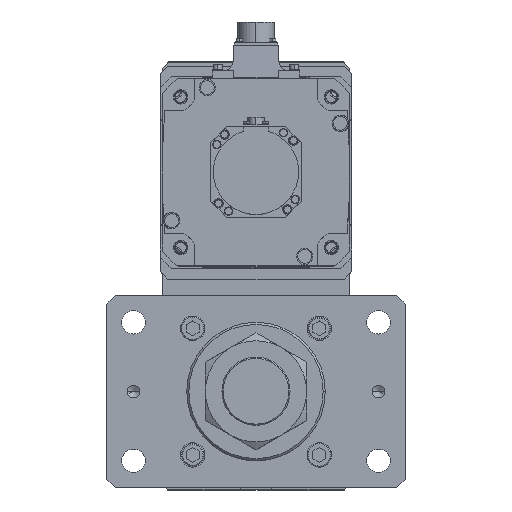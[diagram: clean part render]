
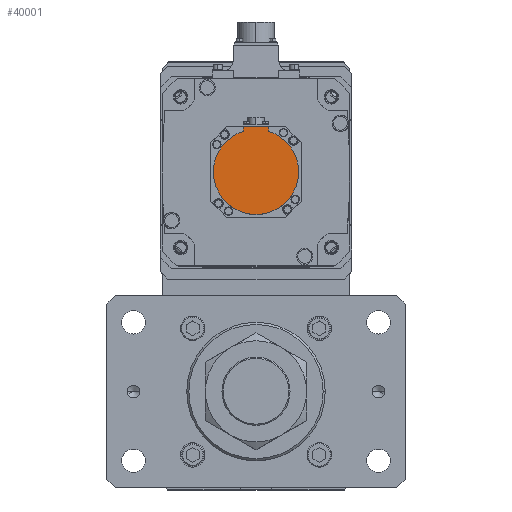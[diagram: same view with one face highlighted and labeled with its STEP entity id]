
A CAD part, top view. The second image highlights one B-rep face of the part: STEP entity #40001.
In plain terms, the highlighted planar face has unit normal (0, 0, 1) as drawn and (0, 0, -1) by its records, which use the part's own axes.
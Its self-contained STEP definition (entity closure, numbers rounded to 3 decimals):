
#1821 = EDGE_CURVE ( 'NONE', #43187, #6129, #43285, .T. ) ;
#4064 = CARTESIAN_POINT ( 'NONE',  ( -12., -42.5, -178.5 ) ) ;
#6129 = VERTEX_POINT ( 'NONE', #33279 ) ;
#6617 = ORIENTED_EDGE ( 'NONE', *, *, #52276, .F. ) ;
#7179 = PLANE ( 'NONE',  #14325 ) ;
#7367 = CARTESIAN_POINT ( 'NONE',  ( 0., -1.249, -178.5 ) ) ;
#7403 = VECTOR ( 'NONE', #18568, 1000. ) ;
#8094 = EDGE_LOOP ( 'NONE', ( #24216, #43880, #14875, #28696, #6617, #18204 ) ) ;
#8290 = CARTESIAN_POINT ( 'NONE',  ( 0., 0., -178.5 ) ) ;
#8581 = VERTEX_POINT ( 'NONE', #4064 ) ;
#9660 = CARTESIAN_POINT ( 'NONE',  ( -12., -40.329, -178.5 ) ) ;
#10130 = EDGE_CURVE ( 'NONE', #8581, #20765, #41369, .T. ) ;
#11684 = AXIS2_PLACEMENT_3D ( 'NONE', #12708, #16794, #29014 ) ;
#11835 = CARTESIAN_POINT ( 'NONE',  ( -12., -38.158, -178.5 ) ) ;
#12708 = CARTESIAN_POINT ( 'NONE',  ( 0., 0., -178.5 ) ) ;
#13900 = CARTESIAN_POINT ( 'NONE',  ( 12., -42.5, -178.5 ) ) ;
#13978 = AXIS2_PLACEMENT_3D ( 'NONE', #24026, #44633, #28604 ) ;
#14325 = AXIS2_PLACEMENT_3D ( 'NONE', #7367, #22823, #51231 ) ;
#14834 = CARTESIAN_POINT ( 'NONE',  ( 0., -42.5, -178.5 ) ) ;
#14875 = ORIENTED_EDGE ( 'NONE', *, *, #32446, .F. ) ;
#14916 = CARTESIAN_POINT ( 'NONE',  ( -40., 0., -178.5 ) ) ;
#15769 = DIRECTION ( 'NONE',  ( 1., 0., 0. ) ) ;
#16123 = DIRECTION ( 'NONE',  ( 0., 0., 1. ) ) ;
#16588 = LINE ( 'NONE', #51242, #35644 ) ;
#16794 = DIRECTION ( 'NONE',  ( 0., 0., 1. ) ) ;
#18204 = ORIENTED_EDGE ( 'NONE', *, *, #19653, .T. ) ;
#18568 = DIRECTION ( 'NONE',  ( -1., 0., 0. ) ) ;
#19130 = VECTOR ( 'NONE', #42126, 1000. ) ;
#19653 = EDGE_CURVE ( 'NONE', #33467, #8581, #32780, .T. ) ;
#20765 = VERTEX_POINT ( 'NONE', #11835 ) ;
#22823 = DIRECTION ( 'NONE',  ( 0., 0., 1. ) ) ;
#23024 = DIRECTION ( 'NONE',  ( 0., 1., 0. ) ) ;
#24026 = CARTESIAN_POINT ( 'NONE',  ( 0., 0., -178.5 ) ) ;
#24216 = ORIENTED_EDGE ( 'NONE', *, *, #10130, .T. ) ;
#24888 = CIRCLE ( 'NONE', #41205, 40. ) ;
#25544 = FACE_OUTER_BOUND ( 'NONE', #8094, .T. ) ;
#28604 = DIRECTION ( 'NONE',  ( 1., 0., 0. ) ) ;
#28696 = ORIENTED_EDGE ( 'NONE', *, *, #1821, .F. ) ;
#29014 = DIRECTION ( 'NONE',  ( 1., 0., 0. ) ) ;
#29875 = VERTEX_POINT ( 'NONE', #14916 ) ;
#32446 = EDGE_CURVE ( 'NONE', #6129, #29875, #24888, .T. ) ;
#32780 = LINE ( 'NONE', #14834, #7403 ) ;
#33279 = CARTESIAN_POINT ( 'NONE',  ( 40., 0., -178.5 ) ) ;
#33467 = VERTEX_POINT ( 'NONE', #13900 ) ;
#35644 = VECTOR ( 'NONE', #23024, 1000. ) ;
#40001 = ADVANCED_FACE ( 'NONE', ( #25544 ), #7179, .F. ) ;
#41205 = AXIS2_PLACEMENT_3D ( 'NONE', #8290, #16123, #15769 ) ;
#41369 = LINE ( 'NONE', #9660, #19130 ) ;
#42126 = DIRECTION ( 'NONE',  ( 0., 1., 0. ) ) ;
#43187 = VERTEX_POINT ( 'NONE', #47880 ) ;
#43285 = CIRCLE ( 'NONE', #13978, 40. ) ;
#43880 = ORIENTED_EDGE ( 'NONE', *, *, #51067, .F. ) ;
#44633 = DIRECTION ( 'NONE',  ( 0., 0., 1. ) ) ;
#47880 = CARTESIAN_POINT ( 'NONE',  ( 12., -38.158, -178.5 ) ) ;
#51067 = EDGE_CURVE ( 'NONE', #29875, #20765, #52273, .T. ) ;
#51231 = DIRECTION ( 'NONE',  ( 1., 0., 0. ) ) ;
#51242 = CARTESIAN_POINT ( 'NONE',  ( 12., -1.249, -178.5 ) ) ;
#52273 = CIRCLE ( 'NONE', #11684, 40. ) ;
#52276 = EDGE_CURVE ( 'NONE', #33467, #43187, #16588, .T. ) ;
